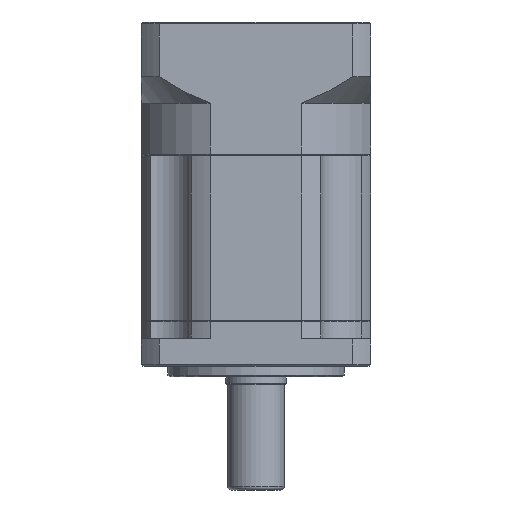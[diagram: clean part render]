
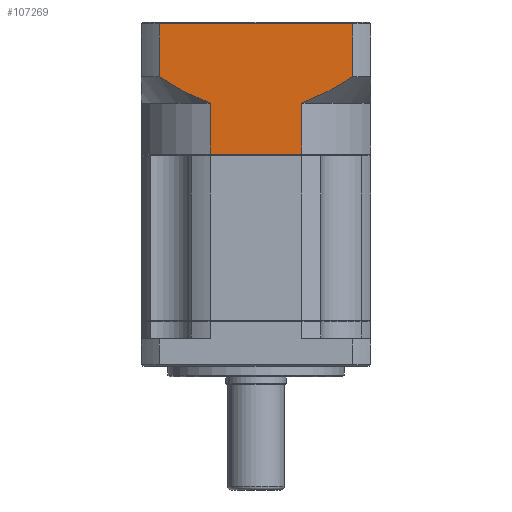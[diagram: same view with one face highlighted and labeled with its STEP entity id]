
A CAD part, front view. The second image highlights one B-rep face of the part: STEP entity #107269.
In plain terms, the highlighted planar face has unit normal (0, -1, 0).
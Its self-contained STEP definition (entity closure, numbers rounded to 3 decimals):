
#726 = CARTESIAN_POINT ( 'NONE',  ( -28.395, 4.23, -4.245 ) ) ;
#2368 = FACE_OUTER_BOUND ( 'NONE', #75000, .T. ) ;
#2522 = CARTESIAN_POINT ( 'NONE',  ( -55.657, 4.23, -3.754 ) ) ;
#5646 = PLANE ( 'NONE',  #54202 ) ;
#8719 = VERTEX_POINT ( 'NONE', #111996 ) ;
#8858 = CARTESIAN_POINT ( 'NONE',  ( -25.856, 4.23, -3.302 ) ) ;
#9863 = DIRECTION ( 'NONE',  ( 0., 0., -1. ) ) ;
#12443 = CARTESIAN_POINT ( 'NONE',  ( -56.918, 4.23, -3.228 ) ) ;
#12469 = DIRECTION ( 'NONE',  ( 1., 0., 0. ) ) ;
#13012 = CARTESIAN_POINT ( 'NONE',  ( -14., 4.23, 18.255 ) ) ;
#15170 = DIRECTION ( 'NONE',  ( -1., 0., 0. ) ) ;
#15743 = VERTEX_POINT ( 'NONE', #102923 ) ;
#17677 = ORIENTED_EDGE ( 'NONE', *, *, #38480, .T. ) ;
#17973 = CARTESIAN_POINT ( 'NONE',  ( -19.811, 4.23, -0.249 ) ) ;
#20369 = CARTESIAN_POINT ( 'NONE',  ( -60.607, 4.23, -1.5 ) ) ;
#20638 = LINE ( 'NONE', #726, #98246 ) ;
#21603 = CARTESIAN_POINT ( 'NONE',  ( -57.542, 4.23, -2.955 ) ) ;
#26411 = EDGE_CURVE ( 'NONE', #37277, #115458, #68724, .T. ) ;
#27980 = CARTESIAN_POINT ( 'NONE',  ( -18.625, 4.23, 0.421 ) ) ;
#28788 = CARTESIAN_POINT ( 'NONE',  ( -14., 4.23, 3.255 ) ) ;
#29451 = CARTESIAN_POINT ( 'NONE',  ( -68.772, 4.23, 0.755 ) ) ;
#30640 = ORIENTED_EDGE ( 'NONE', *, *, #70734, .T. ) ;
#33457 = LINE ( 'NONE', #53901, #69261 ) ;
#36078 = CARTESIAN_POINT ( 'NONE',  ( -68.772, 4.23, 3.255 ) ) ;
#37277 = VERTEX_POINT ( 'NONE', #63306 ) ;
#38480 = EDGE_CURVE ( 'NONE', #93583, #8719, #121692, .T. ) ;
#39056 = VERTEX_POINT ( 'NONE', #13012 ) ;
#39235 = VECTOR ( 'NONE', #39419, 1000. ) ;
#39419 = DIRECTION ( 'NONE',  ( 0., 0., 1. ) ) ;
#45933 = CARTESIAN_POINT ( 'NONE',  ( -16.29, 4.23, 1.806 ) ) ;
#48467 = LINE ( 'NONE', #63460, #76851 ) ;
#50058 = CARTESIAN_POINT ( 'NONE',  ( -54.376, 4.23, -4.245 ) ) ;
#51637 = ORIENTED_EDGE ( 'NONE', *, *, #69465, .F. ) ;
#52759 = CARTESIAN_POINT ( 'NONE',  ( -54.376, 4.23, -18.656 ) ) ;
#53901 = CARTESIAN_POINT ( 'NONE',  ( -14., 4.23, 0.755 ) ) ;
#54202 = AXIS2_PLACEMENT_3D ( 'NONE', #119483, #100242, #15170 ) ;
#55557 = CARTESIAN_POINT ( 'NONE',  ( -23.405, 4.23, -2.158 ) ) ;
#58413 = CARTESIAN_POINT ( 'NONE',  ( -8.886, 4.23, -18.656 ) ) ;
#63306 = CARTESIAN_POINT ( 'NONE',  ( -14., 4.23, 3.255 ) ) ;
#63460 = CARTESIAN_POINT ( 'NONE',  ( -54.376, 4.23, -4.245 ) ) ;
#64647 = LINE ( 'NONE', #29451, #39235 ) ;
#65586 = CARTESIAN_POINT ( 'NONE',  ( -15.138, 4.23, 2.522 ) ) ;
#67205 = ORIENTED_EDGE ( 'NONE', *, *, #75282, .F. ) ;
#68724 = B_SPLINE_CURVE_WITH_KNOTS ( 'NONE', 3,
 ( #28788, #65586, #45933, #27980, #17973, #55557, #8858, #122284 ),
 .UNSPECIFIED., .F., .F.,
 ( 4, 2, 2, 4 ),
 ( 0.059, 0.063, 0.067, 0.075 ),
 .UNSPECIFIED. ) ;
#69261 = VECTOR ( 'NONE', #72264, 1000. ) ;
#69465 = EDGE_CURVE ( 'NONE', #93583, #78419, #48467, .T. ) ;
#70734 = EDGE_CURVE ( 'NONE', #39056, #15743, #112179, .T. ) ;
#72264 = DIRECTION ( 'NONE',  ( 0., 0., -1. ) ) ;
#73501 = DIRECTION ( 'NONE',  ( -1., 0., 0. ) ) ;
#75000 = EDGE_LOOP ( 'NONE', ( #91906, #30640, #67205, #123250, #51637, #17677, #117410, #113031 ) ) ;
#75282 = EDGE_CURVE ( 'NONE', #93855, #15743, #64647, .T. ) ;
#76851 = VECTOR ( 'NONE', #111417, 1000. ) ;
#77080 = CARTESIAN_POINT ( 'NONE',  ( -28.395, 4.23, -4.245 ) ) ;
#78049 = EDGE_CURVE ( 'NONE', #39056, #37277, #33457, .T. ) ;
#78419 = VERTEX_POINT ( 'NONE', #50058 ) ;
#81102 = EDGE_CURVE ( 'NONE', #115458, #8719, #20638, .T. ) ;
#86845 = VECTOR ( 'NONE', #73501, 1000. ) ;
#87171 = CARTESIAN_POINT ( 'NONE',  ( -68.772, 4.23, 3.255 ) ) ;
#88781 = CARTESIAN_POINT ( 'NONE',  ( -64.188, 4.23, 0.405 ) ) ;
#91906 = ORIENTED_EDGE ( 'NONE', *, *, #78049, .F. ) ;
#93583 = VERTEX_POINT ( 'NONE', #52759 ) ;
#93855 = VERTEX_POINT ( 'NONE', #36078 ) ;
#97556 = CARTESIAN_POINT ( 'NONE',  ( -54.376, 4.23, -4.245 ) ) ;
#98246 = VECTOR ( 'NONE', #9863, 1000. ) ;
#98380 = CARTESIAN_POINT ( 'NONE',  ( -66.503, 4.23, 1.793 ) ) ;
#99305 = VECTOR ( 'NONE', #12469, 1000. ) ;
#100242 = DIRECTION ( 'NONE',  ( 0., 1., 0. ) ) ;
#102923 = CARTESIAN_POINT ( 'NONE',  ( -68.772, 4.23, 18.255 ) ) ;
#106338 = CARTESIAN_POINT ( 'NONE',  ( -55.019, 4.23, -4.006 ) ) ;
#107269 = ADVANCED_FACE ( 'NONE', ( #2368 ), #5646, .F. ) ;
#111417 = DIRECTION ( 'NONE',  ( 0., 0., 1. ) ) ;
#111911 = CARTESIAN_POINT ( 'NONE',  ( -68.772, 4.23, 18.255 ) ) ;
#111996 = CARTESIAN_POINT ( 'NONE',  ( -28.395, 4.23, -18.656 ) ) ;
#112179 = LINE ( 'NONE', #111911, #86845 ) ;
#113031 = ORIENTED_EDGE ( 'NONE', *, *, #26411, .F. ) ;
#113120 = EDGE_CURVE ( 'NONE', #78419, #93855, #119968, .T. ) ;
#115458 = VERTEX_POINT ( 'NONE', #77080 ) ;
#117146 = CARTESIAN_POINT ( 'NONE',  ( -59.395, 4.23, -2.105 ) ) ;
#117410 = ORIENTED_EDGE ( 'NONE', *, *, #81102, .F. ) ;
#119483 = CARTESIAN_POINT ( 'NONE',  ( -8.886, 4.23, 18.755 ) ) ;
#119968 = B_SPLINE_CURVE_WITH_KNOTS ( 'NONE', 3,
 ( #97556, #106338, #2522, #12443, #21603, #117146, #20369, #88781, #98380, #87171 ),
 .UNSPECIFIED., .F., .F.,
 ( 4, 2, 2, 2, 4 ),
 ( 0.101, 0.104, 0.106, 0.11, 0.118 ),
 .UNSPECIFIED. ) ;
#121692 = LINE ( 'NONE', #58413, #99305 ) ;
#122284 = CARTESIAN_POINT ( 'NONE',  ( -28.395, 4.23, -4.245 ) ) ;
#123250 = ORIENTED_EDGE ( 'NONE', *, *, #113120, .F. ) ;
